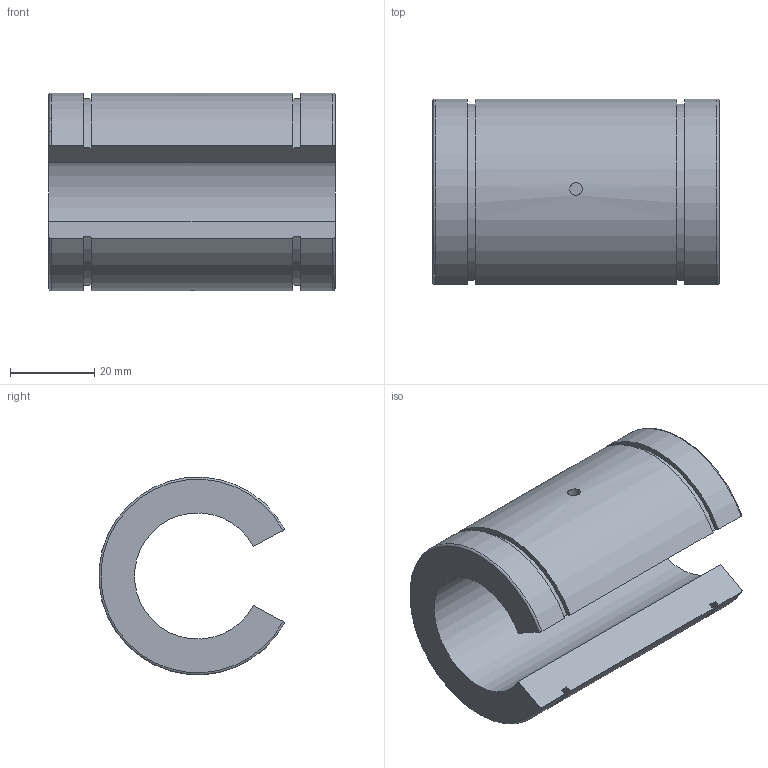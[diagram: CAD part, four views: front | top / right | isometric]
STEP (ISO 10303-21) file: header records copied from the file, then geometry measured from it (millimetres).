
FILE_DESCRIPTION(('STEP AP203'),'1');
FILE_NAME('//192.168.1.1/share/s-4 技術開発/s-4-4_CAD/s-4-4-3_見直し済み/007 修正済み/SB-OP/SB-30OP.step','2022-02-17T01:36:29',(' '),(' '),'Spatial InterOp 3D',' ',' ');
FILE_SCHEMA(('CONFIG_CONTROL_DESIGN'));
Length unit declared in the file: millimetre
Products named in the file (1): 1
Bounding box: 68 x 44.15 x 46.99 mm (x, y, z)
Volume: 58437.3 mm3; surface area: 17348.8 mm2
Topology: 1 solids, 1 shells, 20 faces, 49 edges, 33 vertices
Faces by surface type: plane 10, cylinder 8, torus 2
Full cylindrical faces by diameter (mm): 3 x1, 3.5 x1
Entity records: 732 total; most frequent: CARTESIAN_POINT 221, DIRECTION 98, ORIENTED_EDGE 92, EDGE_CURVE 46, AXIS2_PLACEMENT_3D 37, VERTEX_POINT 32, EDGE_LOOP 24, LINE 24
